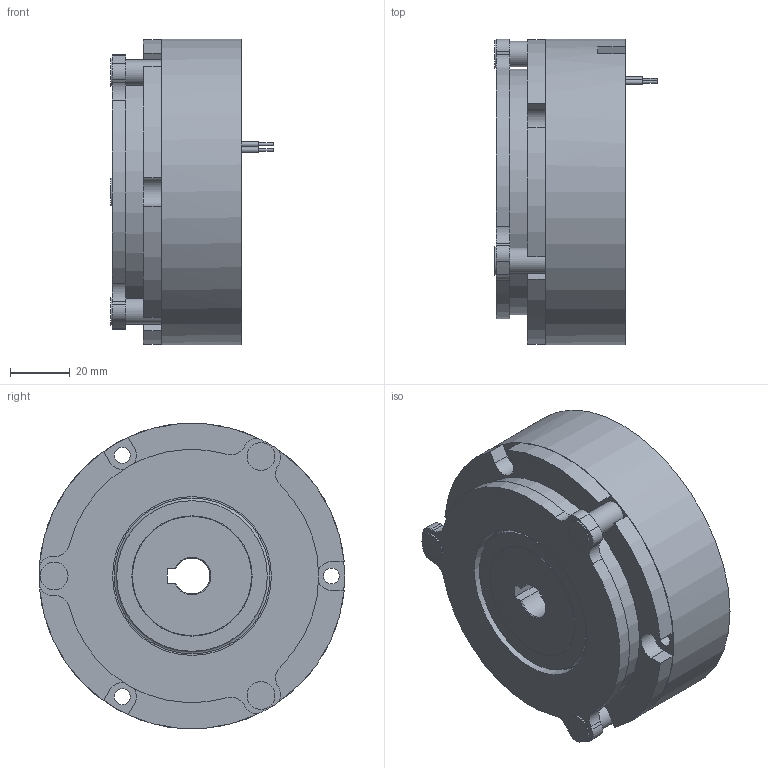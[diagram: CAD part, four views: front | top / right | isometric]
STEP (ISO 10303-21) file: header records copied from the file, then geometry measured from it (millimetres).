
FILE_DESCRIPTION (( 'STEP AP214' ), '1' );
FILE_NAME ('KS_10110A00_Customer_3D_model_19.12.17.STEP', '2020-03-24T10:37:39', ( '' ), ( '' ), 'SwSTEP 2.0', 'SolidWorks 2018', '' );
FILE_SCHEMA (( 'AUTOMOTIVE_DESIGN' ));
Length unit declared in the file: millimetre
Products named in the file (1): KS_10110A00_Customer_3D_model_19.12.17
Bounding box: 54.35 x 102 x 102 mm (x, y, z)
Volume: 296974.1 mm3; surface area: 52593.9 mm2
Topology: 1 solids, 1 shells, 106 faces, 259 edges, 174 vertices
Faces by surface type: cylinder 56, plane 45, cone 3, torus 2
Full cylindrical faces by diameter (mm): 0.9 x2, 1.8 x2, 4.2 x3, 5.3 x3, 8.5 x3, 9.3 x3, 27 x2, 34.2 x1, 50.236 x1, 52 x1, 53 x1, 82 x1, 102 x1
Entity records: 3065 total; most frequent: DIRECTION 552, CARTESIAN_POINT 509, ORIENTED_EDGE 448, AXIS2_PLACEMENT_3D 225, EDGE_CURVE 224, VERTEX_POINT 166, EDGE_LOOP 166, FACE_OUTER_BOUND 132
